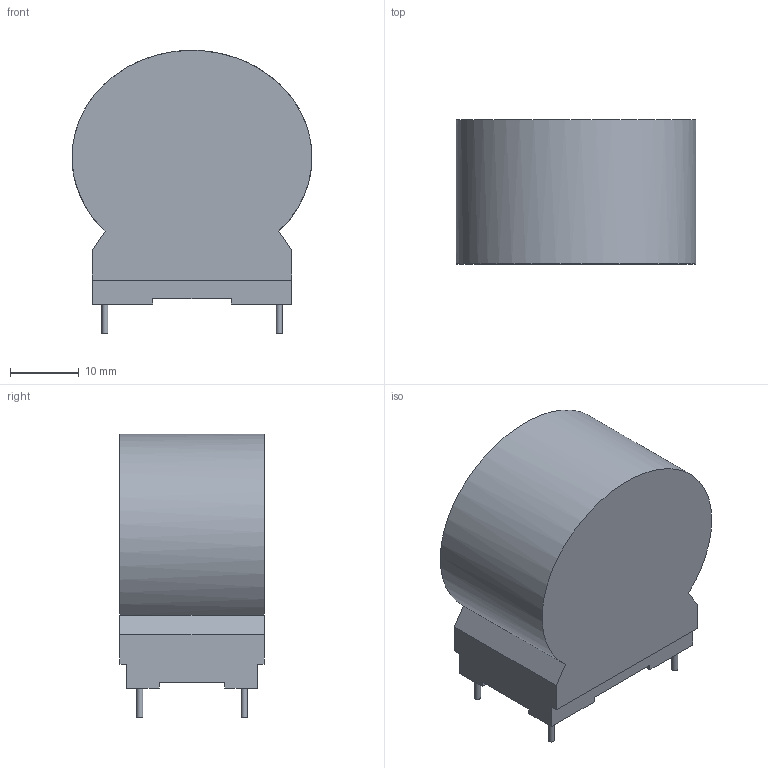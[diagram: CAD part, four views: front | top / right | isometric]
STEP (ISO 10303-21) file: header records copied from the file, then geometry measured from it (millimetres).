
FILE_DESCRIPTION(/* description */ (''),/* implementation_level */ '2;1');
FILE_NAME(/* name */ 'E:\job\working(2020)\CMC construction\6166-X206 4.3mm pin length\6166-X206 3D Model.stp',/* time_stamp */ '2020-06-30T15:20:20+08:00',/* author */ ('cn000333'),/* organization */ (''),/* preprocessor_version */ 'ST-DEVELOPER v17',/* originating_system */ 'Autodesk Inventor 2019',/* authorisation */ '');
FILE_SCHEMA (('AUTOMOTIVE_DESIGN { 1 0 10303 214 3 1 1 }'));
Length unit declared in the file: millimetre
Products named in the file (1): 零件1
Bounding box: 34.99 x 21 x 41.29 mm (x, y, z)
Volume: 22122.5 mm3; surface area: 4882.6 mm2
Topology: 1 solids, 1 shells, 32 faces, 78 edges, 52 vertices
Faces by surface type: plane 27, cylinder 4, bspline 1
Full cylindrical faces by diameter (mm): 0.9 x4
Entity records: 980 total; most frequent: CARTESIAN_POINT 176, ORIENTED_EDGE 156, DIRECTION 152, EDGE_CURVE 78, LINE 68, VECTOR 68, VERTEX_POINT 52, AXIS2_PLACEMENT_3D 42
